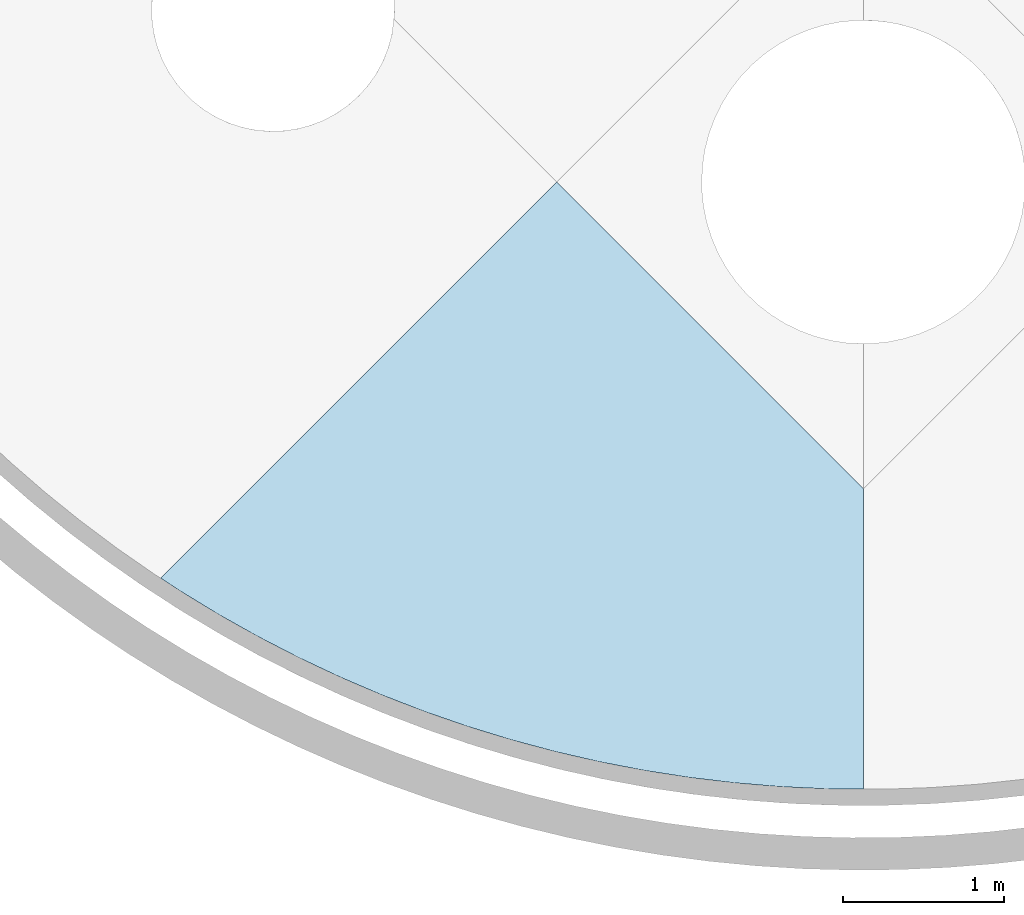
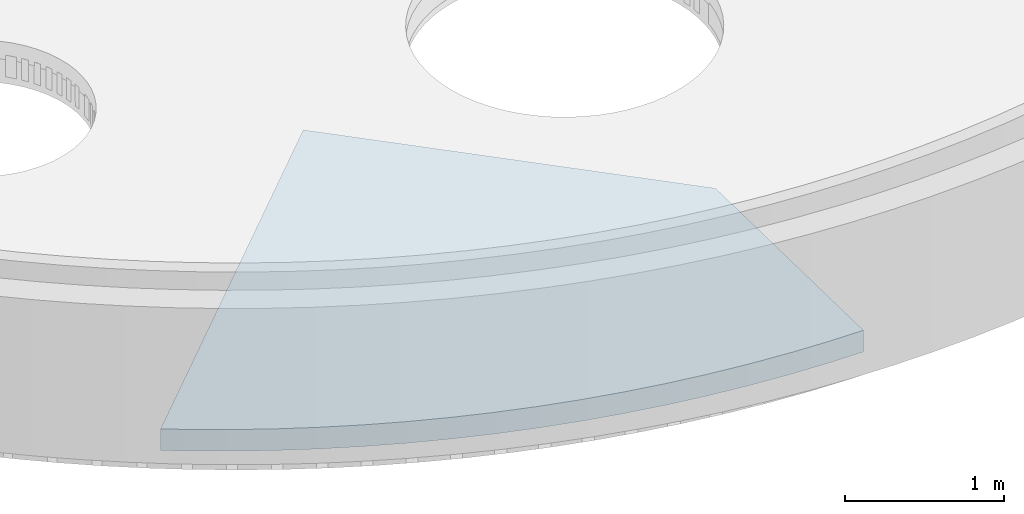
# One storey, part 1 of 10: 1 slab.
"""IFC4 building model written with IfcOpenShell, lengths in millimetres."""

from ifc_helpers import new_model, entity, si_unit, converted_unit, derived_unit, direction, frame, origin_with_axes, place, context, subcontext, project, spatial, polygons, material, constituent, constituent_set, type_object, element, save


model = new_model("IFC4")

# Units and contexts
model_context = context("Model", 3, precision=0.01, world=origin_with_axes(), true_north=direction((0.0, 1.0)))
body_context = subcontext(model_context, "Body", "Model", "MODEL_VIEW")
ifc_project = project(units=[si_unit("LENGTHUNIT", "METRE", prefix="MILLI"), si_unit("AREAUNIT", "SQUARE_METRE"), si_unit("VOLUMEUNIT", "CUBIC_METRE"), converted_unit("PLANEANGLEUNIT", "DEGREE", entity("IfcPlaneAngleMeasure", 0.0174532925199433), si_unit("PLANEANGLEUNIT", "RADIAN"), dimensions=[0, 0, 0, 0, 0, 0, 0]), converted_unit("TIMEUNIT", "Year", entity("IfcTimeMeasure", 31557600.0), si_unit("TIMEUNIT", "SECOND"), dimensions=[0, 0, 1, 0, 0, 0, 0]), si_unit("MASSUNIT", "GRAM", prefix="KILO"), si_unit("THERMODYNAMICTEMPERATUREUNIT", "DEGREE_CELSIUS"), si_unit("LUMINOUSINTENSITYUNIT", "LUMEN"), si_unit("ENERGYUNIT", "JOULE", prefix="MEGA"), derived_unit("THERMALCONDUCTANCEUNIT", [(si_unit("POWERUNIT", "WATT"), 1), (si_unit("LENGTHUNIT", "METRE"), -1), (si_unit("THERMODYNAMICTEMPERATUREUNIT", "KELVIN"), -1)]), derived_unit("SPECIFICHEATCAPACITYUNIT", [(si_unit("ENERGYUNIT", "JOULE"), 1), (si_unit("MASSUNIT", "GRAM", prefix="KILO"), -1), (si_unit("THERMODYNAMICTEMPERATUREUNIT", "KELVIN"), -1)]), derived_unit("MASSDENSITYUNIT", [(si_unit("MASSUNIT", "GRAM", prefix="KILO"), 1), (si_unit("VOLUMEUNIT", "CUBIC_METRE"), -1)])], contexts=[model_context])

# Site, building, storey
site_placement = place(None, origin_with_axes())
site = spatial("IfcSite", under=ifc_project, at=site_placement, Name="Exteriér", CompositionType="ELEMENT")
building_placement = place(site_placement, origin_with_axes())
building = spatial("IfcBuilding", under=site, at=building_placement, Name="Univerzitní lezecké centrum", CompositionType="ELEMENT")
storey_placement = place(building_placement, frame((0.0, 0.0, 9600.000000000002), z_axis=(0.0, 0.0, 1.0), x_axis=(1.0, 0.0, 0.0)))
storey = spatial("IfcBuildingStorey", under=building, at=storey_placement, Name="4.NP", CompositionType="ELEMENT", Elevation=9600.0)

# Slab
ifc_material_1 = material(Name="TPO fólie ochranná")
ifc_constituent_1 = constituent(ifc_material_1, Name="TPO fólie ochranná")
ifc_material_2 = material(Name="Geotextilie 200 g/m2")
ifc_constituent_2 = constituent(ifc_material_2, Name="Geotextilie 200 g/m2")
ifc_material_3 = material(Name="Hydroizolace - TPO fólie")
ifc_constituent_3 = constituent(ifc_material_3, Name="Hydroizolace - TPO fólie")
ifc_material_4 = material(Name="Tepelná izolace - polystyren EPS podlahy")
ifc_constituent_4 = constituent(ifc_material_4, Name="Tepelná izolace - polystyren EPS podlahy")
ifc_constituent_set = constituent_set(constituents=[ifc_constituent_1, ifc_constituent_2, ifc_constituent_3, ifc_constituent_4], Name="!Podlaha spádovaná - terasy - TI + HI vrstva")
slab_type = type_object("IfcSlabType", Name="!Podlaha spádovaná - terasy - TI + HI vrstva 166", PredefinedType="ROOF")
slab_placement = place(storey_placement, frame((435.7116488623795, -4439.702610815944, -300.0062110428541), z_axis=(0.0, 0.0, 1.0), x_axis=(-1.0, 0.0, 0.0)))
element("IfcSlab", 1, at=slab_placement, inside=storey, type_object=slab_type, material=ifc_constituent_set, PredefinedType="ROOF", context=body_context, shape_type="Tessellation", body=[
    polygons([(2220.877645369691, 2530.420236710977, 216.6416014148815), (1980.101079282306, 2677.346138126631, 219.5801194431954), (1734.23380152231, 2815.584544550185, 222.3448875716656), (1483.589132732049, 2944.959292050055, 224.9323825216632), (1228.486481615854, 3065.305512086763, 227.3393069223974), (969.250937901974, 3176.469841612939, 229.562593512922), (706.2128580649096, 3278.310618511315, 231.5994090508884), (439.7074443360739, 3370.698062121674, 233.447157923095), (170.0743175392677, 3453.51443862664, 235.1034854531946), (-102.3429157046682, 3526.654211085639, 236.566280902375), (-377.1971008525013, 3590.024173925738, 237.8336801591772), (-654.1379778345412, 3643.543571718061, 238.9040681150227), (-932.8126274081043, 3687.144202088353, 239.7760807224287), (-1212.865920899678, 3720.770502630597, 240.4486067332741), (-1493.940972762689, 3744.379621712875, 240.9207891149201), (-1775.67959537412, 3757.94147308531, 241.1920261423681), (-2014.133701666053, 3760.297388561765, 241.2391444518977), (-2014.016545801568, 1900.187098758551, 204.0369386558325), (-114.1399999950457, 0.0, 166.0331966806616), (2338.567155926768, 2452.707155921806, 215.0873397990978), (2220.877645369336, 2530.420236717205, 214.641201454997), (1980.101079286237, 2677.346138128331, 217.5797194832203), (1734.233801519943, 2815.58454454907, 220.3444876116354), (1483.589132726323, 2944.959292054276, 222.9319825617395), (1228.486481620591, 3065.305512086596, 225.338906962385), (969.2509379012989, 3176.469841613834, 227.562193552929), (706.2128580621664, 3278.310618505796, 229.5990090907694), (439.7074443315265, 3370.698062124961, 231.4467579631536), (170.074317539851, 3453.51443862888, 233.1030854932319), (-102.34291570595, 3526.654211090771, 234.5658809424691), (-377.197100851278, 3590.024173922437, 235.8332801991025), (-654.1379778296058, 3643.543571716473, 236.9036681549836), (-932.8126274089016, 3687.144202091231, 237.7756807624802), (-1212.865920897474, 3720.770502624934, 238.4482067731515), (-1493.940972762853, 3744.379621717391, 238.9203891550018), (-1775.679595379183, 3757.941473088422, 239.1916261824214), (-2014.133699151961, 3760.297388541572, 239.2387444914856), (-2014.016543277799, 1900.187096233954, 202.0365386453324), (-114.1399999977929, 1.963762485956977e-09, 164.0327967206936), (2338.567155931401, 2452.707155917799, 213.0869398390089)], [[[1, 2, 3, 4, 5, 6, 7, 8, 9, 10, 11, 12, 13, 14, 15, 16, 17, 18, 19, 20]], [[1, 21, 22, 2]], [[2, 22, 23, 3]], [[3, 23, 24, 4]], [[4, 24, 25, 5]], [[5, 25, 26, 6]], [[6, 26, 27, 7]], [[7, 27, 28, 8]], [[8, 28, 29, 9]], [[9, 29, 30, 10]], [[10, 30, 31, 11]], [[11, 31, 32, 12]], [[12, 32, 33, 13]], [[13, 33, 34, 14]], [[14, 34, 35, 15]], [[15, 35, 36, 16]], [[16, 36, 37, 17]], [[17, 37, 38, 18]], [[18, 38, 39, 19]], [[19, 39, 40, 20]], [[20, 40, 21, 1]], [[21, 40, 39, 38, 37, 36, 35, 34, 33, 32, 31, 30, 29, 28, 27, 26, 25, 24, 23, 22]]], closed=True),
    polygons([(2338.567155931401, 2452.707155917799, 213.0869398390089), (2338.567155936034, 2452.707155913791, 211.0865398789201), (2220.877645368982, 2530.420236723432, 212.6408014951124), (2220.877645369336, 2530.420236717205, 214.641201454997), (-114.1399999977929, 1.963762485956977e-09, 164.0327967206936), (-114.1400000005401, 3.928413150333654e-09, 162.0323967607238), (-2014.01654075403, 1900.187093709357, 200.0361386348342), (-2014.133696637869, 3760.297388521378, 237.2383445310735), (-1775.679595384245, 3757.941473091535, 237.1912262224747), (-1493.940972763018, 3744.379621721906, 236.9199891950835), (-1212.86592089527, 3720.770502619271, 236.4478068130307), (-932.812627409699, 3687.144202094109, 235.7752808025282), (-654.1379778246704, 3643.543571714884, 234.9032681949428), (-377.1971008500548, 3590.024173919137, 233.8328802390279), (-102.3429157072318, 3526.654211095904, 232.5654809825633), (170.0743175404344, 3453.51443863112, 231.1026855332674), (439.707444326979, 3370.698062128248, 229.4463580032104), (706.2128580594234, 3278.310618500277, 227.5986091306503), (969.2509379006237, 3176.46984161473, 225.5617935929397), (1228.486481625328, 3065.305512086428, 223.3385070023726), (1483.589132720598, 2944.959292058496, 220.9315826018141), (1734.233801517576, 2815.584544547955, 218.3440876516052), (1980.101079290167, 2677.346138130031, 215.5793195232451), (1980.101079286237, 2677.346138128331, 217.5797194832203), (1734.233801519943, 2815.58454454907, 220.3444876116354), (1483.589132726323, 2944.959292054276, 222.9319825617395), (1228.486481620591, 3065.305512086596, 225.338906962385), (969.2509379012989, 3176.469841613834, 227.562193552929), (706.2128580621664, 3278.310618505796, 229.5990090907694), (439.7074443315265, 3370.698062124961, 231.4467579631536), (170.074317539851, 3453.51443862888, 233.1030854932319), (-102.34291570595, 3526.654211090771, 234.5658809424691), (-377.197100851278, 3590.024173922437, 235.8332801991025), (-654.1379778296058, 3643.543571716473, 236.9036681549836), (-932.8126274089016, 3687.144202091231, 237.7756807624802), (-1212.865920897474, 3720.770502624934, 238.4482067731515), (-1493.940972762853, 3744.379621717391, 238.9203891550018), (-1775.679595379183, 3757.941473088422, 239.1916261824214), (-2014.133699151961, 3760.297388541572, 239.2387444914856), (-2014.016543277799, 1900.187096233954, 202.0365386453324)], [[[1, 2, 3, 4]], [[5, 6, 2, 1]], [[3, 2, 6, 7, 8, 9, 10, 11, 12, 13, 14, 15, 16, 17, 18, 19, 20, 21, 22, 23]], [[4, 3, 23, 24]], [[4, 24, 25, 26, 27, 28, 29, 30, 31, 32, 33, 34, 35, 36, 37, 38, 39, 40, 5, 1]], [[40, 7, 6, 5]], [[39, 8, 7, 40]], [[38, 9, 8, 39]], [[37, 10, 9, 38]], [[36, 11, 10, 37]], [[35, 12, 11, 36]], [[34, 13, 12, 35]], [[33, 14, 13, 34]], [[32, 15, 14, 33]], [[31, 16, 15, 32]], [[30, 17, 16, 31]], [[29, 18, 17, 30]], [[28, 19, 18, 29]], [[27, 20, 19, 28]], [[26, 21, 20, 27]], [[25, 22, 21, 26]], [[24, 23, 22, 25]]], closed=True),
    polygons([(2338.567155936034, 2452.70715591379, 211.0865398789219), (2338.567155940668, 2452.707155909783, 209.0861399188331), (2220.877645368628, 2530.42023672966, 210.6404015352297), (2220.877645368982, 2530.420236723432, 212.6408014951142), (-114.1400000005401, 3.928413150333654e-09, 162.0323967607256), (-114.1400000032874, 5.893063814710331e-09, 160.0319968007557), (-2014.016538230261, 1900.187091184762, 198.0357386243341), (-2014.133694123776, 3760.297388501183, 235.2379445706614), (-1775.679595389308, 3757.941473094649, 235.1908262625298), (-1493.940972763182, 3744.379621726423, 234.9195892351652), (-1212.865920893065, 3720.770502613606, 234.4474068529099), (-932.8126274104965, 3687.144202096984, 233.7748808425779), (-654.1379778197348, 3643.543571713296, 232.9028682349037), (-377.1971008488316, 3590.024173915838, 231.8324802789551), (-102.3429157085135, 3526.654211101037, 230.5650810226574), (170.0743175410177, 3453.514438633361, 229.1022855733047), (439.7074443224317, 3370.698062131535, 227.4459580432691), (706.2128580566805, 3278.310618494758, 225.5982091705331), (969.2509378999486, 3176.469841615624, 223.5613936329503), (1228.486481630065, 3065.30551208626, 221.3381070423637), (1483.589132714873, 2944.959292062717, 218.9311826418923), (1734.233801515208, 2815.584544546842, 216.3436876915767), (1980.101079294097, 2677.34613813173, 213.5789195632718), (1980.101079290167, 2677.34613813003, 215.5793195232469), (1734.233801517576, 2815.584544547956, 218.3440876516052), (1483.589132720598, 2944.959292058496, 220.9315826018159), (1228.486481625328, 3065.305512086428, 223.3385070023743), (969.2509379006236, 3176.469841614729, 225.5617935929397), (706.2128580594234, 3278.310618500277, 227.5986091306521), (439.707444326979, 3370.698062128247, 229.4463580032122), (170.0743175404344, 3453.514438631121, 231.102685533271), (-102.3429157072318, 3526.654211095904, 232.565480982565), (-377.1971008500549, 3590.024173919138, 233.8328802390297), (-654.1379778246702, 3643.543571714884, 234.9032681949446), (-932.8126274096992, 3687.144202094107, 235.7752808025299), (-1212.86592089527, 3720.770502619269, 236.4478068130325), (-1493.940972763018, 3744.379621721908, 236.9199891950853), (-1775.679595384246, 3757.941473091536, 237.1912262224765), (-2014.133696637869, 3760.297388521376, 237.2383445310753), (-2014.01654075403, 1900.187093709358, 200.0361386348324)], [[[1, 2, 3, 4]], [[5, 6, 2, 1]], [[3, 2, 6, 7, 8, 9, 10, 11, 12, 13, 14, 15, 16, 17, 18, 19, 20, 21, 22, 23]], [[4, 3, 23, 24]], [[4, 24, 25, 26, 27, 28, 29, 30, 31, 32, 33, 34, 35, 36, 37, 38, 39, 40, 5, 1]], [[40, 7, 6, 5]], [[39, 8, 7, 40]], [[38, 9, 8, 39]], [[37, 10, 9, 38]], [[36, 11, 10, 37]], [[35, 12, 11, 36]], [[34, 13, 12, 35]], [[33, 14, 13, 34]], [[32, 15, 14, 33]], [[31, 16, 15, 32]], [[30, 17, 16, 31]], [[29, 18, 17, 30]], [[28, 19, 18, 29]], [[27, 20, 19, 28]], [[26, 21, 20, 27]], [[25, 22, 21, 26]], [[24, 23, 22, 25]]], closed=True),
    polygons([(2338.567155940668, 2452.707155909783, 209.0861399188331), (2338.567156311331, 2452.707155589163, 49.05414291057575), (2220.877645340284, 2530.420237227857, 50.60840454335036), (2220.877645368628, 2530.42023672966, 210.6404015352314), (-114.1400000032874, 5.892175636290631e-09, 160.0319968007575), (-114.1400002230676, 1.630473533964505e-07, -1.979465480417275e-07), (-2014.016336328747, 1900.186889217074, 38.00373758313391), (-2014.133492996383, 3760.29738688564, 75.20594753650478), (-1775.679595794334, 3757.941473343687, 75.15882926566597), (-1493.940972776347, 3744.379622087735, 74.88759224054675), (-1212.865920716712, 3720.770502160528, 74.41540984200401), (-932.8126274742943, 3687.144202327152, 73.74288384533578), (-654.1379774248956, 3643.543571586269, 72.87087123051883), (-377.1971007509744, 3590.024173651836, 71.80048327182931), (-102.3429158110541, 3526.654211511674, 70.53308402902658), (170.0743175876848, 3453.514438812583, 69.07028857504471), (439.7074439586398, 3370.698062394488, 67.4139610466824), (706.212857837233, 3278.310618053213, 65.56621215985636), (969.2509378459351, 3176.469841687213, 63.52939663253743), (1228.486482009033, 3065.305512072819, 61.306110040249), (1483.589132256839, 2944.959292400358, 58.89918564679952), (1734.233801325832, 2815.584544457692, 56.31169068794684), (1980.101079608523, 2677.346138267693, 53.54692256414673), (1980.101079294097, 2677.34613813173, 213.5789195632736), (1734.233801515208, 2815.584544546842, 216.343687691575), (1483.589132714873, 2944.959292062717, 218.9311826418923), (1228.486481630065, 3065.30551208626, 221.3381070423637), (969.2509378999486, 3176.469841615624, 223.5613936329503), (706.2128580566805, 3278.310618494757, 225.5982091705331), (439.7074443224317, 3370.698062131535, 227.4459580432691), (170.0743175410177, 3453.514438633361, 229.1022855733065), (-102.3429157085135, 3526.654211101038, 230.5650810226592), (-377.1971008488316, 3590.024173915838, 231.8324802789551), (-654.1379778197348, 3643.543571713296, 232.9028682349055), (-932.8126274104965, 3687.144202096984, 233.7748808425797), (-1212.865920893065, 3720.770502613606, 234.4474068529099), (-1493.940972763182, 3744.379621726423, 234.919589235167), (-1775.679595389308, 3757.941473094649, 235.1908262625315), (-2014.133694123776, 3760.297388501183, 235.2379445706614), (-2014.016538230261, 1900.187091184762, 198.0357386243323)], [[[1, 2, 3, 4]], [[5, 6, 2, 1]], [[2, 6, 7, 8, 9, 10, 11, 12, 13, 14, 15, 16, 17, 18, 19, 20, 21, 22, 23, 3]], [[4, 3, 23, 24]], [[4, 24, 25, 26, 27, 28, 29, 30, 31, 32, 33, 34, 35, 36, 37, 38, 39, 40, 5, 1]], [[40, 7, 6, 5]], [[39, 8, 7, 40]], [[38, 9, 8, 39]], [[37, 10, 9, 38]], [[36, 11, 10, 37]], [[35, 12, 11, 36]], [[34, 13, 12, 35]], [[33, 14, 13, 34]], [[32, 15, 14, 33]], [[31, 16, 15, 32]], [[30, 17, 16, 31]], [[29, 18, 17, 30]], [[28, 19, 18, 29]], [[27, 20, 19, 28]], [[26, 21, 20, 27]], [[25, 22, 21, 26]], [[24, 23, 22, 25]]], closed=True),
])

save(model, "model.ifc")
